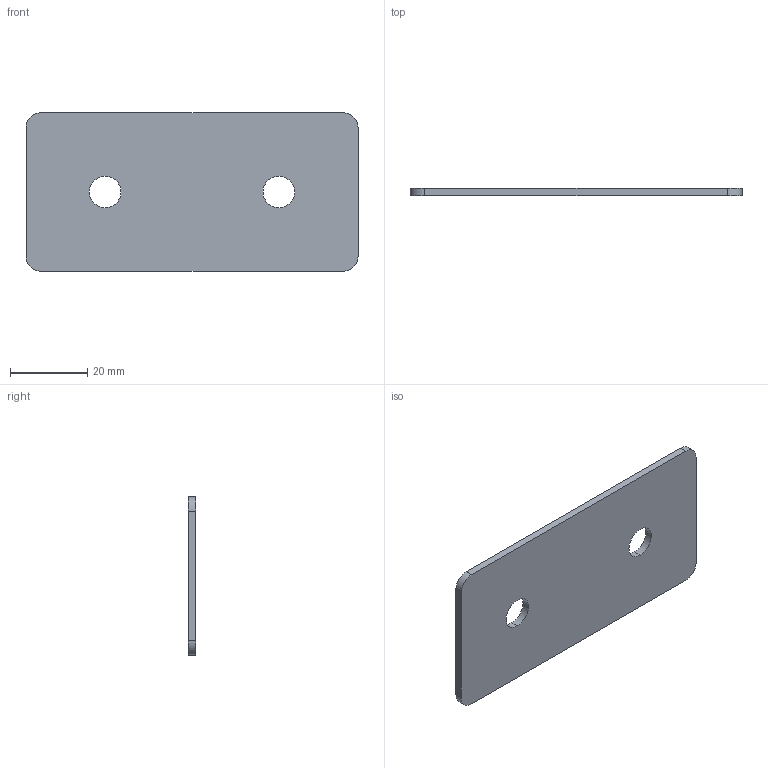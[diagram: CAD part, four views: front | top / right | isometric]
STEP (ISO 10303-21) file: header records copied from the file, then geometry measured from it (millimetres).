
FILE_DESCRIPTION (( 'STEP AP203' ), '1' );
FILE_NAME ('ﾏ-2-45.STEP', '2016-07-23T14:30:26', ( '' ), ( '' ), 'SwSTEP 2.0', 'SolidWorks 2014', '' );
FILE_SCHEMA (( 'CONFIG_CONTROL_DESIGN' ));
Length unit declared in the file: millimetre
Products named in the file (1): ﾏ-2-45
Bounding box: 86 x 2 x 41 mm (x, y, z)
Volume: 6816.2 mm3; surface area: 7414.2 mm2
Topology: 1 solids, 1 shells, 14 faces, 36 edges, 24 vertices
Faces by surface type: cylinder 8, plane 6
Entity records: 521 total; most frequent: DIRECTION 82, CARTESIAN_POINT 75, ORIENTED_EDGE 72, EDGE_CURVE 36, AXIS2_PLACEMENT_3D 31, VERTEX_POINT 24, LINE 20, VECTOR 20
